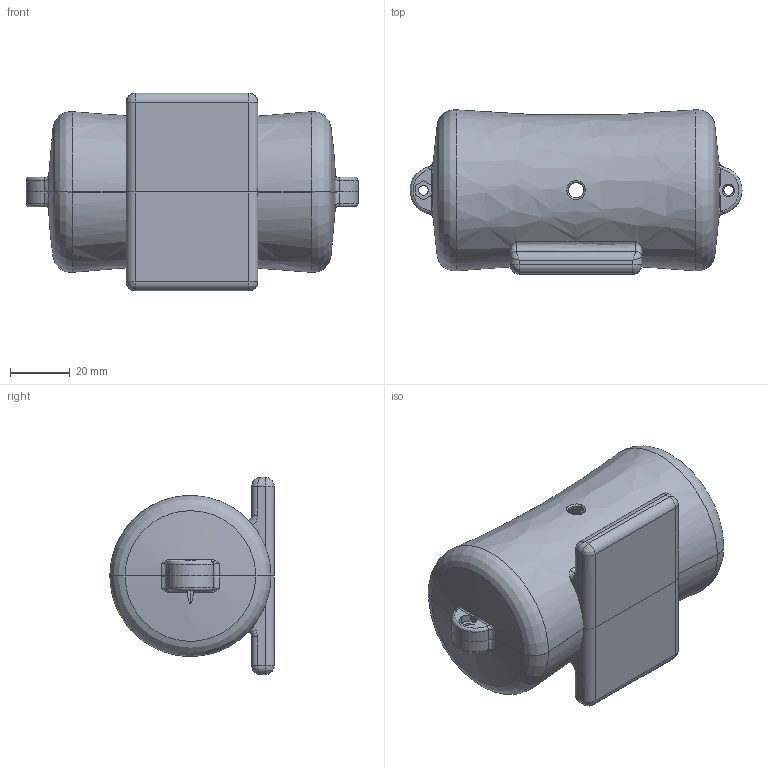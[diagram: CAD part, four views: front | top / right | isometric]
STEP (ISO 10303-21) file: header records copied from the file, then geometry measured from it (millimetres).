
FILE_DESCRIPTION (( 'STEP AP203' ), '1' );
FILE_NAME ('3D_TMM4.STEP', '2017-07-07T06:10:44', ( '' ), ( '' ), 'SwSTEP 2.0', 'SolidWorks 2015', '' );
FILE_SCHEMA (( 'CONFIG_CONTROL_DESIGN' ));
Length unit declared in the file: millimetre
Products named in the file (1): 3D_TMM4
Bounding box: 111 x 54.94 x 66 mm (x, y, z)
Surface area: 26222.1 mm2 (no closed solid volume)
Topology: 0 solids, 1 shells, 139 faces, 492 edges, 316 vertices
Faces by surface type: bspline 66, cylinder 35, plane 34, cone 4
Entity records: 27126 total; most frequent: CARTESIAN_POINT 23756, ORIENTED_EDGE 819, EDGE_CURVE 476, DIRECTION 389, VERTEX_POINT 314, B_SPLINE_CURVE_WITH_KNOTS 281, EDGE_LOOP 153, FACE_OUTER_BOUND 139
